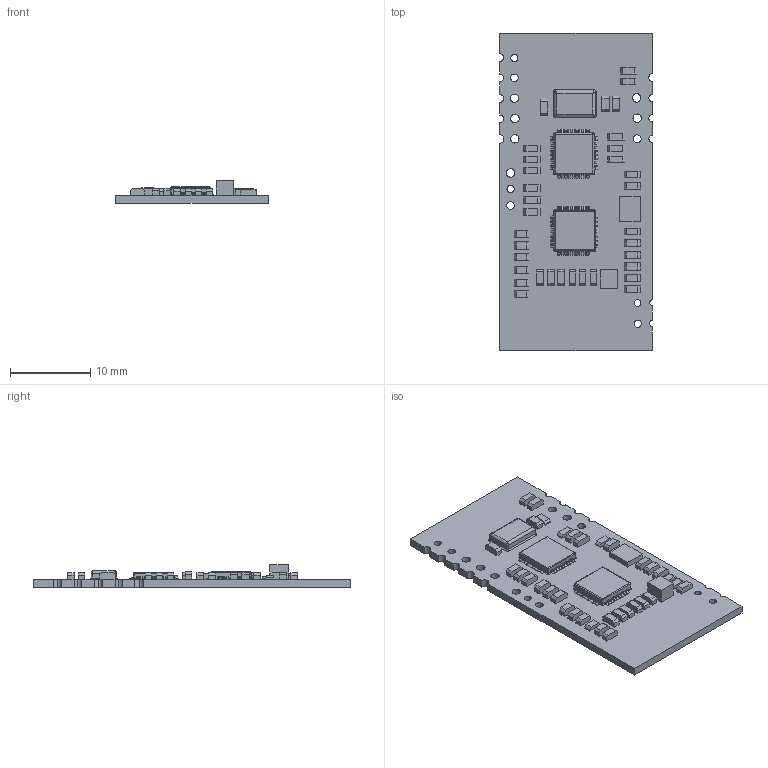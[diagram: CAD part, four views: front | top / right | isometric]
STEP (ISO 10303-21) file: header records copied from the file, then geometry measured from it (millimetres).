
FILE_DESCRIPTION (( 'STEP AP214' ), '1' );
FILE_NAME ('OEM-M890-Sonder_04-ausg.STEP', '2020-02-26T12:51:32', ( '' ), ( '' ), 'SwSTEP 2.0', 'SolidWorks 2016', '' );
FILE_SCHEMA (( 'AUTOMOTIVE_DESIGN' ));
Length unit declared in the file: millimetre
Products named in the file (1): OEM-M890-Sonder_04-ausg
Bounding box: 18.91 x 39.49 x 2.8 mm (x, y, z)
Volume: 850.7 mm3; surface area: 1868.2 mm2
Topology: 82 solids, 82 shells, 2488 faces, 5835 edges, 3538 vertices
Faces by surface type: plane 1009, cylinder 969, torus 498, sphere 8, bspline 4
Entity records: 71308 total; most frequent: CARTESIAN_POINT 13424, DIRECTION 12403, ORIENTED_EDGE 11646, EDGE_CURVE 5823, AXIS2_PLACEMENT_3D 4589, VERTEX_POINT 3538, VECTOR 3225, LINE 3225
